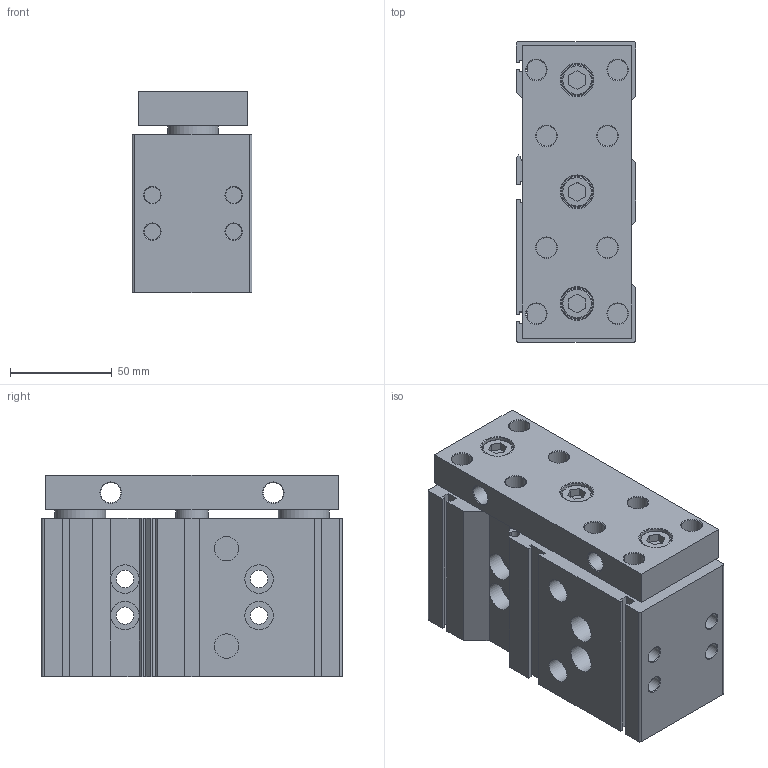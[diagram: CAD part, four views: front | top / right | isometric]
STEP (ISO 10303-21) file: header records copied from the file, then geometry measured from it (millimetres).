
FILE_DESCRIPTION((''),'2;1');
FILE_NAME('I:\3D電子目錄\氣缸\TB(U)\TB(U)50\TB50(U)\TB(U)50x30.stp','2007-08-06T09:22:51',('Administrator'),(''),'Autodesk Inventor 2008','Autodesk Inventor 2008','');
FILE_SCHEMA(('AUTOMOTIVE_DESIGN { 1 0 10303 214 1 1 1 1 }'));
Length unit declared in the file: millimetre
Products named in the file (1): TB(U)50X30
Bounding box: 59 x 148 x 99 mm (x, y, z)
Volume: 701275.1 mm3; surface area: 95811.5 mm2
Topology: 1 solids, 1 shells, 206 faces, 460 edges, 292 vertices
Faces by surface type: plane 106, cylinder 52, cone 37, bspline 8, torus 3
Full cylindrical faces by diameter (mm): 8 x4, 8.5 x4, 10 x18, 12 x2, 14 x4, 15 x3, 16 x4, 20 x2, 25 x2, 32 x2, 52 x1
Entity records: 5360 total; most frequent: CARTESIAN_POINT 945, DIRECTION 920, ORIENTED_EDGE 736, EDGE_CURVE 368, EDGE_LOOP 364, AXIS2_PLACEMENT_3D 353, VERTEX_POINT 290, VECTOR 214
